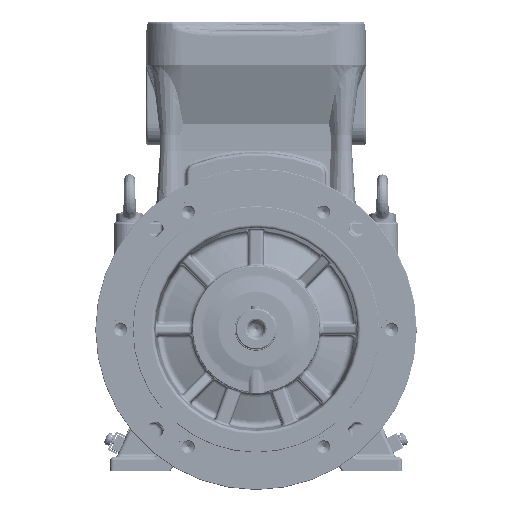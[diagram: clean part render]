
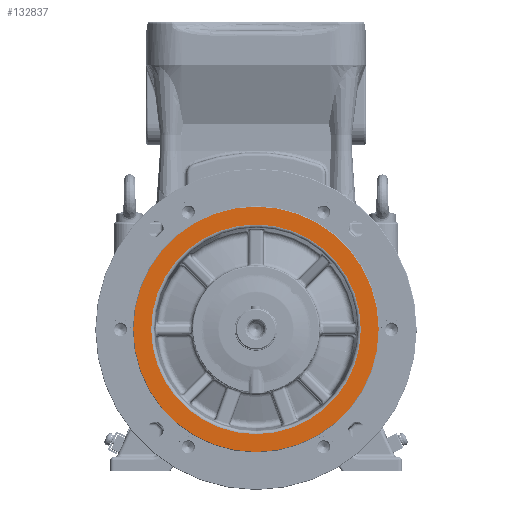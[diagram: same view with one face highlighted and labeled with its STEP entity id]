
A CAD part, top view. The second image highlights one B-rep face of the part: STEP entity #132837.
In plain terms, the highlighted planar face has unit normal (0, 0, 1).
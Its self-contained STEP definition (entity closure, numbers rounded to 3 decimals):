
#5699 = CIRCLE ( 'NONE', #139036, 114.5 ) ;
#18336 = EDGE_CURVE ( 'NONE', #55915, #219736, #32213, .T. ) ;
#22155 = AXIS2_PLACEMENT_3D ( 'NONE', #47479, #84465, #29746 ) ;
#29746 = DIRECTION ( 'NONE',  ( 0., -1., 0. ) ) ;
#30400 = ORIENTED_EDGE ( 'NONE', *, *, #185607, .T. ) ;
#32213 = CIRCLE ( 'NONE', #72497, 97.847 ) ;
#36117 = EDGE_LOOP ( 'NONE', ( #111669, #99320 ) ) ;
#41278 = EDGE_CURVE ( 'NONE', #219736, #55915, #76445, .T. ) ;
#47479 = CARTESIAN_POINT ( 'NONE',  ( 0., 0., 78. ) ) ;
#55915 = VERTEX_POINT ( 'NONE', #69529 ) ;
#61237 = DIRECTION ( 'NONE',  ( 0., 0., 1. ) ) ;
#69529 = CARTESIAN_POINT ( 'NONE',  ( 0., 97.847, 78. ) ) ;
#72497 = AXIS2_PLACEMENT_3D ( 'NONE', #169026, #201428, #80298 ) ;
#76445 = CIRCLE ( 'NONE', #105256, 97.847 ) ;
#77492 = DIRECTION ( 'NONE',  ( 1., 0., 0. ) ) ;
#78078 = FACE_BOUND ( 'NONE', #36117, .T. ) ;
#80298 = DIRECTION ( 'NONE',  ( 0., -1., 0. ) ) ;
#84465 = DIRECTION ( 'NONE',  ( 0., 0., 1. ) ) ;
#93776 = CARTESIAN_POINT ( 'NONE',  ( 0., -97.847, 78. ) ) ;
#96792 = CARTESIAN_POINT ( 'NONE',  ( 0., 115., 78. ) ) ;
#99320 = ORIENTED_EDGE ( 'NONE', *, *, #18336, .T. ) ;
#105256 = AXIS2_PLACEMENT_3D ( 'NONE', #217077, #125784, #126571 ) ;
#111669 = ORIENTED_EDGE ( 'NONE', *, *, #41278, .T. ) ;
#111887 = CARTESIAN_POINT ( 'NONE',  ( 0., 114.5, 78. ) ) ;
#114644 = VERTEX_POINT ( 'NONE', #111887 ) ;
#125391 = CARTESIAN_POINT ( 'NONE',  ( 0., -114.5, 78. ) ) ;
#125468 = VERTEX_POINT ( 'NONE', #125391 ) ;
#125784 = DIRECTION ( 'NONE',  ( 0., 0., -1. ) ) ;
#126571 = DIRECTION ( 'NONE',  ( 0., -1., 0. ) ) ;
#132837 = ADVANCED_FACE ( 'NONE', ( #193814, #78078 ), #183902, .T. ) ;
#139036 = AXIS2_PLACEMENT_3D ( 'NONE', #220910, #221651, #186180 ) ;
#149443 = CIRCLE ( 'NONE', #22155, 114.5 ) ;
#169026 = CARTESIAN_POINT ( 'NONE',  ( 0., 0., 78. ) ) ;
#173127 = ORIENTED_EDGE ( 'NONE', *, *, #174194, .T. ) ;
#174194 = EDGE_CURVE ( 'NONE', #125468, #114644, #149443, .T. ) ;
#183902 = PLANE ( 'NONE',  #228918 ) ;
#185607 = EDGE_CURVE ( 'NONE', #114644, #125468, #5699, .T. ) ;
#186180 = DIRECTION ( 'NONE',  ( 0., -1., 0. ) ) ;
#189568 = EDGE_LOOP ( 'NONE', ( #30400, #173127 ) ) ;
#193814 = FACE_OUTER_BOUND ( 'NONE', #189568, .T. ) ;
#201428 = DIRECTION ( 'NONE',  ( 0., 0., -1. ) ) ;
#217077 = CARTESIAN_POINT ( 'NONE',  ( 0., 0., 78. ) ) ;
#219736 = VERTEX_POINT ( 'NONE', #93776 ) ;
#220910 = CARTESIAN_POINT ( 'NONE',  ( 0., 0., 78. ) ) ;
#221651 = DIRECTION ( 'NONE',  ( 0., 0., 1. ) ) ;
#228918 = AXIS2_PLACEMENT_3D ( 'NONE', #96792, #61237, #77492 ) ;
